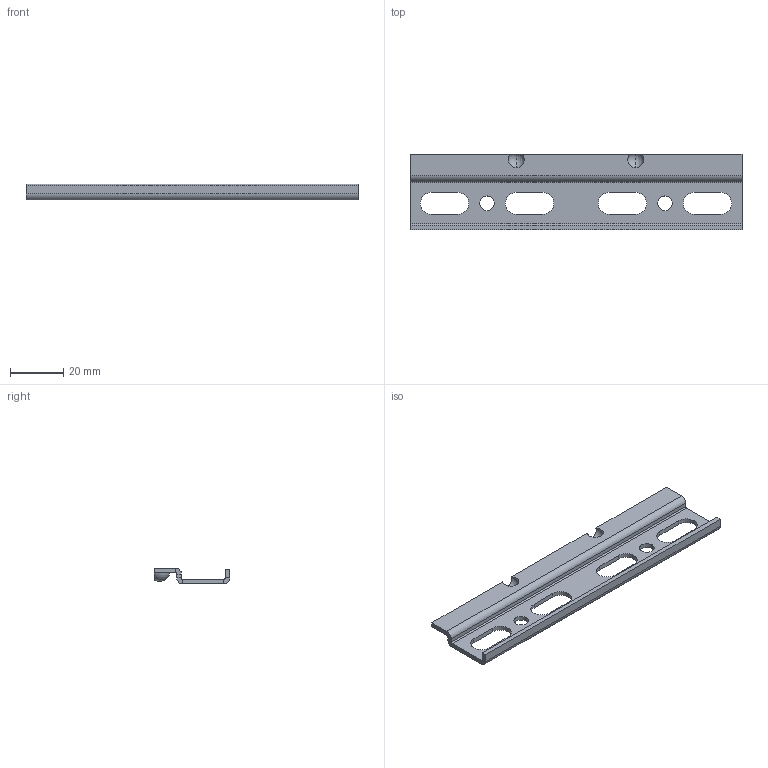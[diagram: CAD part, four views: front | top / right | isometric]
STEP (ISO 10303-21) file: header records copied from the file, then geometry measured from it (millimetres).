
FILE_DESCRIPTION (( 'STEP AP203' ), '1' );
FILE_NAME ('Aufhängeschiene_Typ2_D8310200192~0.step', '2012-05-04T06:20:27', ( 'admin' ), ( 'Hewlett-Packard Company' ), 'SwSTEP 2.0', 'SolidWorks 2011', '' );
FILE_SCHEMA (( 'CONFIG_CONTROL_DESIGN' ));
Length unit declared in the file: millimetre
Products named in the file (1): Aufhängeschiene_Typ2_D8310200192~0
Bounding box: 125 x 28.5 x 6 mm (x, y, z)
Volume: 6557.3 mm3; surface area: 8575.9 mm2
Topology: 1 solids, 1 shells, 60 faces, 170 edges, 106 vertices
Faces by surface type: plane 32, cylinder 22, sphere 6
Entity records: 1901 total; most frequent: DIRECTION 334, CARTESIAN_POINT 307, ORIENTED_EDGE 304, EDGE_CURVE 152, AXIS2_PLACEMENT_3D 121, VERTEX_POINT 94, LINE 92, VECTOR 92
